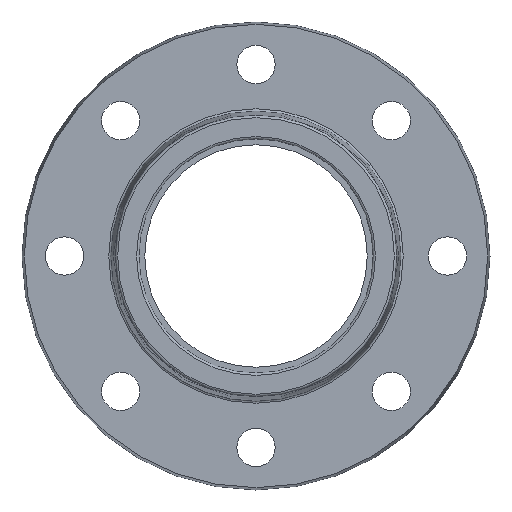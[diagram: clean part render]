
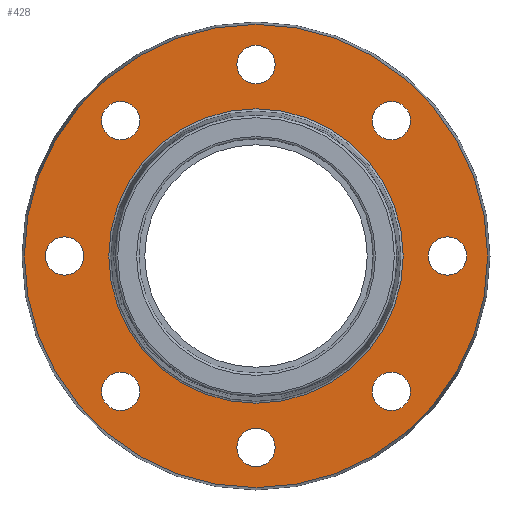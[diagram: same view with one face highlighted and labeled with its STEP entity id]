
A CAD part, left-side view. The second image highlights one B-rep face of the part: STEP entity #428.
In plain terms, the highlighted planar face has unit normal (-1, 0, 0).
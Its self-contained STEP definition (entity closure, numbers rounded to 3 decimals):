
#29=PLANE('',#493);
#60=FACE_BOUND('',#162,.T.);
#61=FACE_BOUND('',#163,.T.);
#62=FACE_BOUND('',#164,.T.);
#63=FACE_BOUND('',#165,.T.);
#64=FACE_BOUND('',#166,.T.);
#65=FACE_BOUND('',#167,.T.);
#66=FACE_BOUND('',#168,.T.);
#67=FACE_BOUND('',#169,.T.);
#68=FACE_BOUND('',#170,.T.);
#100=FACE_OUTER_BOUND('',#161,.T.);
#161=EDGE_LOOP('',(#361));
#162=EDGE_LOOP('',(#362));
#163=EDGE_LOOP('',(#363));
#164=EDGE_LOOP('',(#364));
#165=EDGE_LOOP('',(#365));
#166=EDGE_LOOP('',(#366));
#167=EDGE_LOOP('',(#367));
#168=EDGE_LOOP('',(#368));
#169=EDGE_LOOP('',(#369));
#170=EDGE_LOOP('',(#370));
#221=CIRCLE('',#492,69.19);
#222=CIRCLE('',#494,108.9);
#223=CIRCLE('',#495,9.);
#224=CIRCLE('',#496,9.);
#225=CIRCLE('',#497,9.);
#226=CIRCLE('',#498,9.);
#227=CIRCLE('',#499,9.);
#228=CIRCLE('',#500,9.);
#229=CIRCLE('',#501,9.);
#230=CIRCLE('',#502,9.);
#261=VERTEX_POINT('',#741);
#262=VERTEX_POINT('',#744);
#263=VERTEX_POINT('',#746);
#264=VERTEX_POINT('',#748);
#265=VERTEX_POINT('',#750);
#266=VERTEX_POINT('',#752);
#267=VERTEX_POINT('',#754);
#268=VERTEX_POINT('',#756);
#269=VERTEX_POINT('',#758);
#270=VERTEX_POINT('',#760);
#301=EDGE_CURVE('',#261,#261,#221,.T.);
#302=EDGE_CURVE('',#262,#262,#222,.T.);
#303=EDGE_CURVE('',#263,#263,#223,.T.);
#304=EDGE_CURVE('',#264,#264,#224,.T.);
#305=EDGE_CURVE('',#265,#265,#225,.T.);
#306=EDGE_CURVE('',#266,#266,#226,.T.);
#307=EDGE_CURVE('',#267,#267,#227,.T.);
#308=EDGE_CURVE('',#268,#268,#228,.T.);
#309=EDGE_CURVE('',#269,#269,#229,.T.);
#310=EDGE_CURVE('',#270,#270,#230,.T.);
#361=ORIENTED_EDGE('',*,*,#302,.T.);
#362=ORIENTED_EDGE('',*,*,#303,.T.);
#363=ORIENTED_EDGE('',*,*,#304,.T.);
#364=ORIENTED_EDGE('',*,*,#305,.T.);
#365=ORIENTED_EDGE('',*,*,#306,.T.);
#366=ORIENTED_EDGE('',*,*,#307,.T.);
#367=ORIENTED_EDGE('',*,*,#308,.T.);
#368=ORIENTED_EDGE('',*,*,#309,.T.);
#369=ORIENTED_EDGE('',*,*,#310,.T.);
#370=ORIENTED_EDGE('',*,*,#301,.F.);
#428=ADVANCED_FACE('',(#100,#60,#61,#62,#63,#64,#65,#66,#67,#68),#29,.T.);
#492=AXIS2_PLACEMENT_3D('',#742,#617,#618);
#493=AXIS2_PLACEMENT_3D('',#743,#619,#620);
#494=AXIS2_PLACEMENT_3D('',#745,#621,#622);
#495=AXIS2_PLACEMENT_3D('',#747,#623,#624);
#496=AXIS2_PLACEMENT_3D('',#749,#625,#626);
#497=AXIS2_PLACEMENT_3D('',#751,#627,#628);
#498=AXIS2_PLACEMENT_3D('',#753,#629,#630);
#499=AXIS2_PLACEMENT_3D('',#755,#631,#632);
#500=AXIS2_PLACEMENT_3D('',#757,#633,#634);
#501=AXIS2_PLACEMENT_3D('',#759,#635,#636);
#502=AXIS2_PLACEMENT_3D('',#761,#637,#638);
#617=DIRECTION('center_axis',(-1.,0.,0.));
#618=DIRECTION('ref_axis',(0.,1.,0.));
#619=DIRECTION('center_axis',(-1.,0.,0.));
#620=DIRECTION('ref_axis',(0.,0.,1.));
#621=DIRECTION('center_axis',(-1.,0.,0.));
#622=DIRECTION('ref_axis',(0.,0.,1.));
#623=DIRECTION('center_axis',(1.,0.,0.));
#624=DIRECTION('ref_axis',(0.,0.,1.));
#625=DIRECTION('center_axis',(1.,0.,0.));
#626=DIRECTION('ref_axis',(0.,0.707,0.707));
#627=DIRECTION('center_axis',(1.,0.,0.));
#628=DIRECTION('ref_axis',(0.,1.,0.));
#629=DIRECTION('center_axis',(1.,0.,0.));
#630=DIRECTION('ref_axis',(0.,0.707,-0.707));
#631=DIRECTION('center_axis',(1.,0.,0.));
#632=DIRECTION('ref_axis',(0.,0.,-1.));
#633=DIRECTION('center_axis',(1.,0.,0.));
#634=DIRECTION('ref_axis',(0.,-0.707,-0.707));
#635=DIRECTION('center_axis',(1.,0.,0.));
#636=DIRECTION('ref_axis',(0.,-1.,0.));
#637=DIRECTION('center_axis',(1.,0.,0.));
#638=DIRECTION('ref_axis',(0.,-0.707,0.707));
#741=CARTESIAN_POINT('',(10.,-69.19,0.));
#742=CARTESIAN_POINT('Origin',(10.,0.,0.));
#743=CARTESIAN_POINT('Origin',(10.,-68.143,0.));
#744=CARTESIAN_POINT('',(10.,-108.9,0.));
#745=CARTESIAN_POINT('Origin',(10.,0.,0.));
#746=CARTESIAN_POINT('',(10.,90.,-9.));
#747=CARTESIAN_POINT('Origin',(10.,90.,0.));
#748=CARTESIAN_POINT('',(10.,57.276,-70.004));
#749=CARTESIAN_POINT('Origin',(10.,63.64,-63.64));
#750=CARTESIAN_POINT('',(10.,-9.,-90.));
#751=CARTESIAN_POINT('Origin',(10.,0.,-90.));
#752=CARTESIAN_POINT('',(10.,-70.004,-57.276));
#753=CARTESIAN_POINT('Origin',(10.,-63.64,-63.64));
#754=CARTESIAN_POINT('',(10.,-90.,9.));
#755=CARTESIAN_POINT('Origin',(10.,-90.,0.));
#756=CARTESIAN_POINT('',(10.,-57.276,70.004));
#757=CARTESIAN_POINT('Origin',(10.,-63.64,63.64));
#758=CARTESIAN_POINT('',(10.,9.,90.));
#759=CARTESIAN_POINT('Origin',(10.,0.,90.));
#760=CARTESIAN_POINT('',(10.,70.004,57.276));
#761=CARTESIAN_POINT('Origin',(10.,63.64,63.64));
